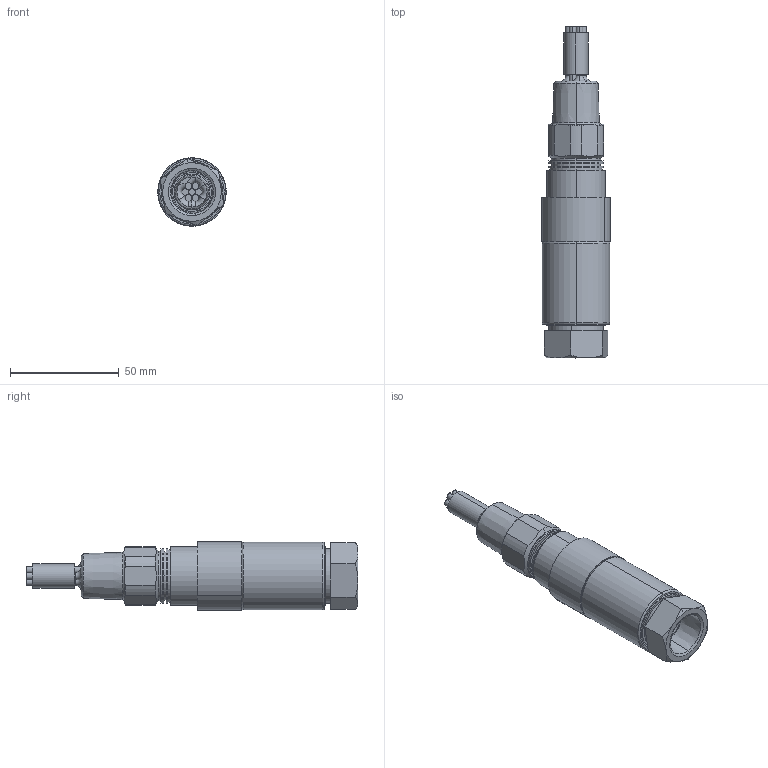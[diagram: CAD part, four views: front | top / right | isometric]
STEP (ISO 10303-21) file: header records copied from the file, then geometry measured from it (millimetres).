
FILE_DESCRIPTION (( 'STEP AP214' ), '1' );
FILE_NAME ('12SXXN3_4_A_H.STEP', '2025-04-01T18:51:51', ( '' ), ( '' ), 'SwSTEP 2.0', 'SolidWorks 2023', '' );
FILE_SCHEMA (( 'AUTOMOTIVE_DESIGN' ));
Length unit declared in the file: inch
Products named in the file (1): 12SXXN3_4_A_H
Bounding box: 31.45 x 152.81 x 31.45 mm (x, y, z)
Surface area: 22371.5 mm2 (no closed solid volume)
Topology: 0 solids, 9 shells, 140 faces, 332 edges, 211 vertices
Faces by surface type: cylinder 51, plane 37, cone 32, torus 16, bspline 4
Entity records: 4499 total; most frequent: CARTESIAN_POINT 1225, DIRECTION 733, ORIENTED_EDGE 638, EDGE_CURVE 332, AXIS2_PLACEMENT_3D 319, VERTEX_POINT 211, CIRCLE 182, EDGE_LOOP 158
